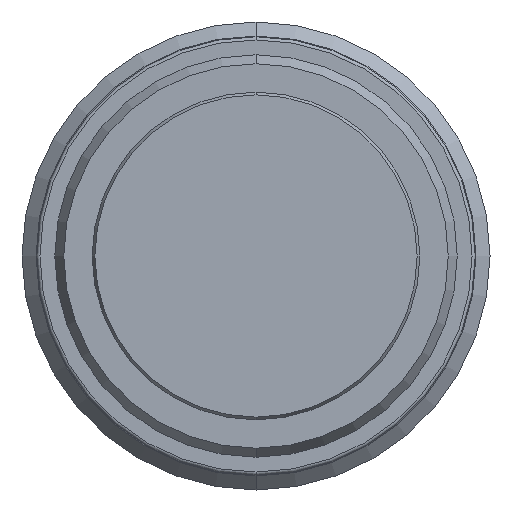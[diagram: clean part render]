
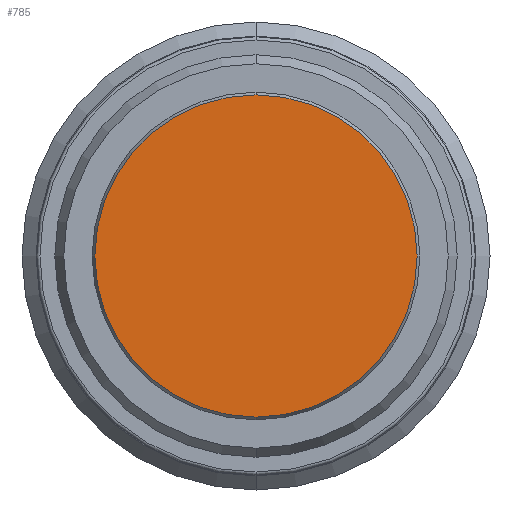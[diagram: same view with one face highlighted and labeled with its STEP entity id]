
A CAD part, front view. The second image highlights one B-rep face of the part: STEP entity #785.
In plain terms, the highlighted planar face has unit normal (0, -1, 0).
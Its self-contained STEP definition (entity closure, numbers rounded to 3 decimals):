
#460=PLANE('',#2092);
#785=ADVANCED_FACE('',(#896),#460,.T.);
#896=FACE_OUTER_BOUND('',#997,.T.);
#997=EDGE_LOOP('',(#1277,#1278));
#1277=ORIENTED_EDGE('',*,*,#1654,.F.);
#1278=ORIENTED_EDGE('',*,*,#1761,.F.);
#1515=VERTEX_POINT('',#2759);
#1516=VERTEX_POINT('',#2760);
#1654=EDGE_CURVE('',#1515,#1516,#1880,.T.);
#1761=EDGE_CURVE('',#1516,#1515,#1925,.T.);
#1880=CIRCLE('',#2001,10.327);
#1925=CIRCLE('',#2090,10.327);
#2001=AXIS2_PLACEMENT_3D('',#2758,#2235,#2236);
#2090=AXIS2_PLACEMENT_3D('',#3041,#2455,#2456);
#2092=AXIS2_PLACEMENT_3D('',#3043,#2459,#2460);
#2235=DIRECTION('',(0.,1.,0.));
#2236=DIRECTION('',(0.,0.,1.));
#2455=DIRECTION('',(0.,1.,0.));
#2456=DIRECTION('',(0.,0.,1.));
#2459=DIRECTION('',(0.,-1.,0.));
#2460=DIRECTION('',(0.,0.,1.));
#2758=CARTESIAN_POINT('',(0.,-2.5,0.));
#2759=CARTESIAN_POINT('',(0.,-2.5,10.327));
#2760=CARTESIAN_POINT('',(0.,-2.5,-10.327));
#3041=CARTESIAN_POINT('',(0.,-2.5,0.));
#3043=CARTESIAN_POINT('',(0.,-2.5,0.));
